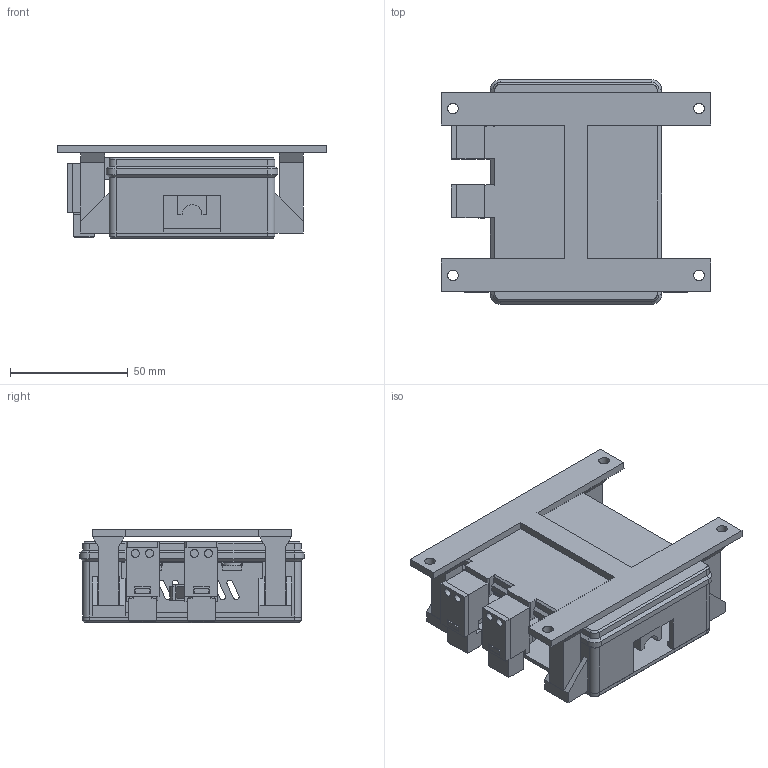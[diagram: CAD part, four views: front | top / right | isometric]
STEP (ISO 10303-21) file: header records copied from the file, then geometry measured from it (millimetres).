
FILE_DESCRIPTION(('Open CASCADE Model'),'2;1');
FILE_NAME('Open CASCADE Shape Model','2026-10-19T19:28:57',('Author'),( 'Open CASCADE'),'Open CASCADE STEP processor 7.9','build123d', 'Unknown');
FILE_SCHEMA(('AUTOMOTIVE_DESIGN { 1 0 10303 214 1 1 1 1 }'));
Length unit declared in the file: millimetre
Products named in the file (16): COMPOUND; lid; body; desk_bracket; pcb_clamp_left_front; pcb_clamp_left_rear; pcb_clamp_right_front; pcb_clamp_right_rear; reset_frame; reset_slider; reset_rear_keeper; reset_moving_magnet_keeper; boot_frame; boot_slider; boot_rear_keeper; boot_moving_magnet_keeper
Assembly tree (15 placements, depth 2):
  COMPOUND
    lid
    body
    desk_bracket
    pcb_clamp_left_front
    pcb_clamp_left_rear
    pcb_clamp_right_front
    pcb_clamp_right_rear
    reset_frame
    reset_slider
    reset_rear_keeper
    reset_moving_magnet_keeper
    boot_frame
    boot_slider
    boot_rear_keeper
    boot_moving_magnet_keeper
Bounding box: 114.4 x 95.2 x 39.6 mm (x, y, z)
Volume: 94228.7 mm3; surface area: 74195.7 mm2
Topology: 15 solids, 15 shells, 662 faces, 1788 edges, 1196 vertices
Faces by surface type: plane 522, cylinder 123, cone 16, bspline 1
Full cylindrical faces by diameter (mm): 3.4 x22, 4 x18, 4.5 x4
Entity records: 56189 total; most frequent: CARTESIAN_POINT 22321, DIRECTION 5579, LINE 4181, VECTOR 4181, ORIENTED_EDGE 3576, PCURVE 3576, DEFINITIONAL_REPRESENTATION 3576, EDGE_CURVE 1788
